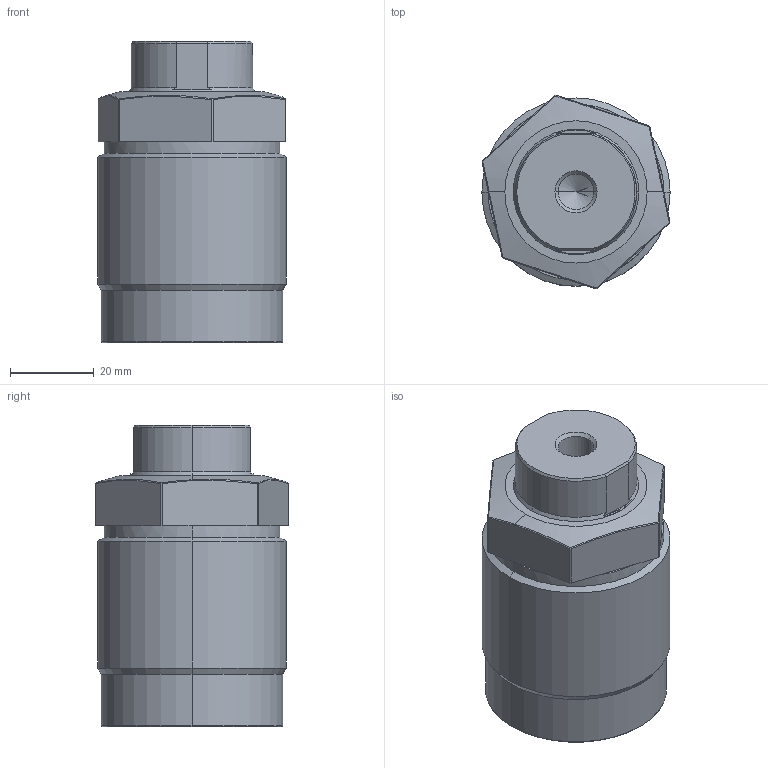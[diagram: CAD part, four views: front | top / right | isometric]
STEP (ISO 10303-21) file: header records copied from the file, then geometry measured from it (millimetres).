
FILE_DESCRIPTION (( 'STEP AP214' ), '1' );
FILE_NAME ('TO3C-M455-M.STEP', '2020-07-10T05:00:30', ( '' ), ( '' ), 'SwSTEP 2.0', 'SolidWorks 2019', '' );
FILE_SCHEMA (( 'AUTOMOTIVE_DESIGN' ));
Length unit declared in the file: millimetre
Products named in the file (3): M455-M-PLUNGER; TO3C-M455-M; TO3C-M455-M-BODY
Assembly tree (2 placements, depth 2):
  TO3C-M455-M
    TO3C-M455-M-BODY
    M455-M-PLUNGER
Bounding box: 45 x 46.2 x 72 mm (x, y, z)
Volume: 105595.5 mm3; surface area: 21294.6 mm2
Topology: 2 solids, 2 shells, 98 faces, 210 edges, 119 vertices
Faces by surface type: plane 44, cone 25, cylinder 23, bspline 6
Entity records: 3838 total; most frequent: CARTESIAN_POINT 1624, DIRECTION 444, ORIENTED_EDGE 416, EDGE_CURVE 208, AXIS2_PLACEMENT_3D 173, VERTEX_POINT 119, EDGE_LOOP 103, VECTOR 98
